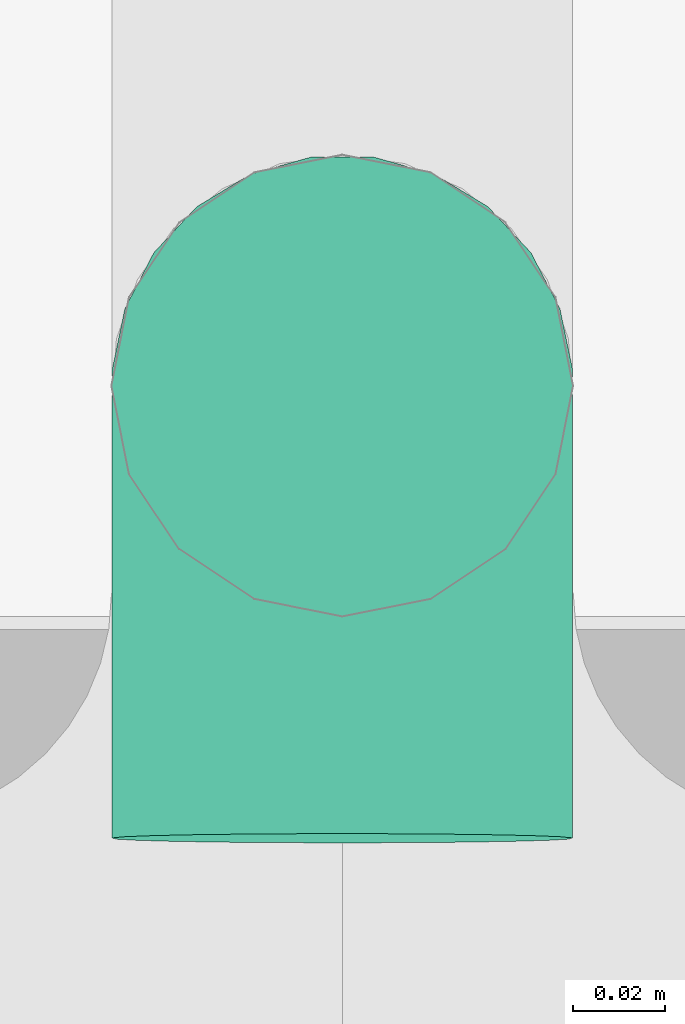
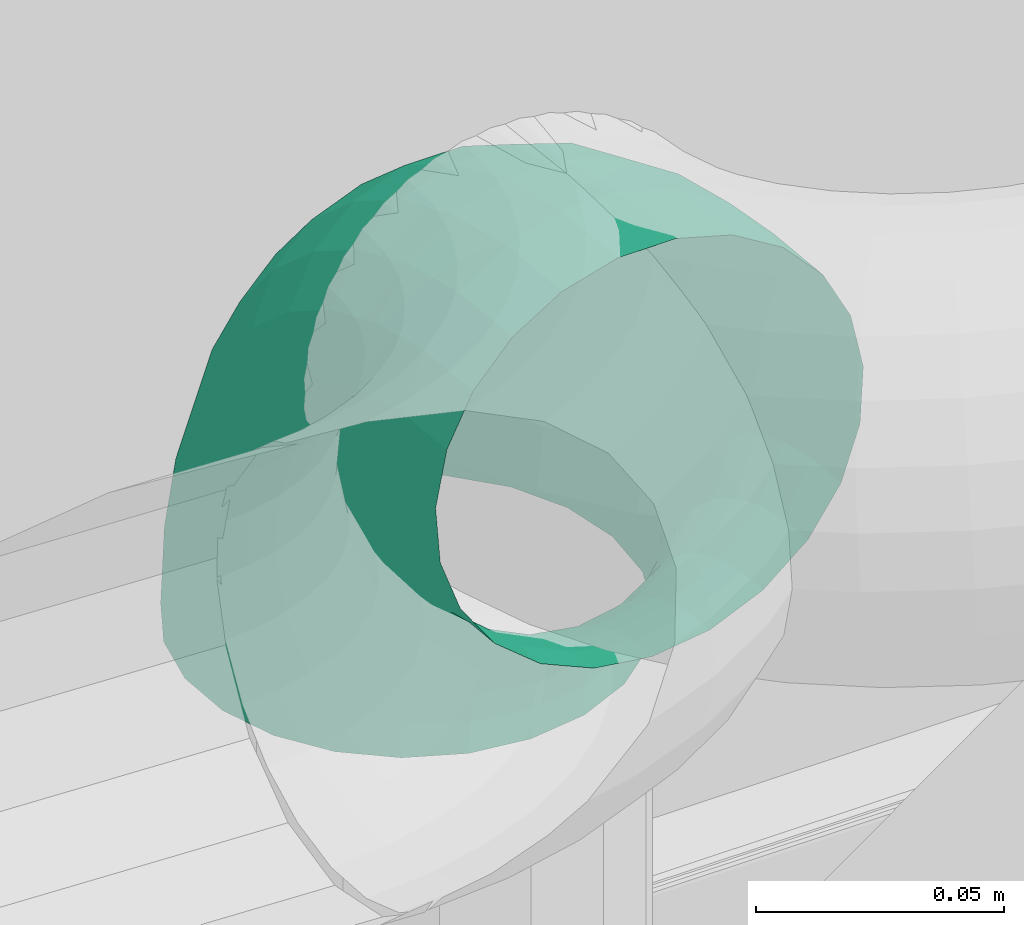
# One storey, part 101 of 106: 1 flow fitting.
"""IFC2X3 building model written with IfcOpenShell, lengths in metres."""

from ifc_helpers import new_model, entity, si_unit, converted_unit, derived_unit, money_unit, direction, frame, origin_with_axes, place, context, subcontext, project, spatial, open_shell, surface_model, material, type_object, element, save


model = new_model("IFC2X3")

# Units and contexts
model_context = context("Model", 3, precision=1e-05, world=origin_with_axes(), true_north=direction((0.0, 1.0)))
body_context = subcontext(model_context, "Body", "Model", "MODEL_VIEW", scale=1.0)
ifc_project = project(units=[si_unit("LENGTHUNIT", "METRE"), si_unit("AREAUNIT", "SQUARE_METRE"), si_unit("VOLUMEUNIT", "CUBIC_METRE"), si_unit("ABSORBEDDOSEUNIT", "GRAY"), si_unit("AMOUNTOFSUBSTANCEUNIT", "MOLE"), si_unit("DOSEEQUIVALENTUNIT", "SIEVERT"), si_unit("ELECTRICCAPACITANCEUNIT", "FARAD"), si_unit("ELECTRICCHARGEUNIT", "COULOMB"), si_unit("ELECTRICCONDUCTANCEUNIT", "SIEMENS"), si_unit("ELECTRICCURRENTUNIT", "AMPERE"), si_unit("ELECTRICRESISTANCEUNIT", "OHM"), si_unit("ELECTRICVOLTAGEUNIT", "VOLT"), si_unit("ENERGYUNIT", "JOULE"), si_unit("FORCEUNIT", "NEWTON"), si_unit("FREQUENCYUNIT", "HERTZ"), si_unit("ILLUMINANCEUNIT", "LUX"), si_unit("INDUCTANCEUNIT", "HENRY"), si_unit("LUMINOUSFLUXUNIT", "LUMEN"), si_unit("LUMINOUSINTENSITYUNIT", "CANDELA"), si_unit("MAGNETICFLUXDENSITYUNIT", "TESLA"), si_unit("MAGNETICFLUXUNIT", "WEBER"), si_unit("MASSUNIT", "GRAM"), converted_unit("PLANEANGLEUNIT", "degree", entity("IfcReal", 0.0174532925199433), si_unit("PLANEANGLEUNIT", "RADIAN"), dimensions=[0, 0, 0, 0, 0, 0, 0]), si_unit("POWERUNIT", "WATT"), si_unit("PRESSUREUNIT", "PASCAL"), si_unit("RADIOACTIVITYUNIT", "BECQUEREL"), si_unit("SOLIDANGLEUNIT", "STERADIAN"), si_unit("THERMODYNAMICTEMPERATUREUNIT", "KELVIN"), si_unit("TIMEUNIT", "SECOND"), derived_unit("ACCELERATIONUNIT", [(si_unit("LENGTHUNIT", "METRE"), 1), (si_unit("TIMEUNIT", "SECOND"), -2)]), derived_unit("ANGULARVELOCITYUNIT", [(converted_unit("PLANEANGLEUNIT", "degree", entity("IfcReal", 0.0174532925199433), si_unit("PLANEANGLEUNIT", "RADIAN"), dimensions=[0, 0, 0, 0, 0, 0, 0]), 1), (si_unit("TIMEUNIT", "SECOND"), -1)]), derived_unit("CURVATUREUNIT", [(converted_unit("PLANEANGLEUNIT", "degree", entity("IfcReal", 0.0174532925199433), si_unit("PLANEANGLEUNIT", "RADIAN"), dimensions=[0, 0, 0, 0, 0, 0, 0]), 1), (si_unit("LENGTHUNIT", "METRE"), -1)]), derived_unit("DYNAMICVISCOSITYUNIT", [(si_unit("PRESSUREUNIT", "PASCAL"), 1), (si_unit("TIMEUNIT", "SECOND"), 1)]), derived_unit("HEATFLUXDENSITYUNIT", [(si_unit("POWERUNIT", "WATT"), 1), (si_unit("LENGTHUNIT", "METRE"), -2)]), derived_unit("HEATINGVALUEUNIT", [(si_unit("ENERGYUNIT", "JOULE"), 1), (si_unit("MASSUNIT", "GRAM"), -1)]), derived_unit("INTEGERCOUNTRATEUNIT", [(si_unit("TIMEUNIT", "SECOND"), -1)]), derived_unit("IONCONCENTRATIONUNIT", [(si_unit("MASSUNIT", "GRAM"), 1), (si_unit("VOLUMEUNIT", "CUBIC_METRE"), -1)]), derived_unit("ISOTHERMALMOISTURECAPACITYUNIT", [(si_unit("VOLUMEUNIT", "CUBIC_METRE"), 1), (si_unit("MASSUNIT", "GRAM"), -1)]), derived_unit("KINEMATICVISCOSITYUNIT", [(si_unit("AREAUNIT", "SQUARE_METRE"), 1), (si_unit("TIMEUNIT", "SECOND"), -1)]), derived_unit("LINEARFORCEUNIT", [(si_unit("FORCEUNIT", "NEWTON"), 1), (si_unit("LENGTHUNIT", "METRE"), -1)]), derived_unit("LINEARMOMENTUNIT", [(si_unit("FORCEUNIT", "NEWTON"), 1), (si_unit("LENGTHUNIT", "METRE"), -1)]), derived_unit("LINEARSTIFFNESSUNIT", [(si_unit("FORCEUNIT", "NEWTON"), 1), (si_unit("LENGTHUNIT", "METRE"), -1)]), derived_unit("LINEARVELOCITYUNIT", [(si_unit("LENGTHUNIT", "METRE"), 1), (si_unit("TIMEUNIT", "SECOND"), -1)]), derived_unit("LUMINOUSINTENSITYDISTRIBUTIONUNIT", [(si_unit("LUMINOUSINTENSITYUNIT", "CANDELA"), 1), (si_unit("LUMINOUSFLUXUNIT", "LUMEN"), -1)]), derived_unit("MASSDENSITYUNIT", [(si_unit("MASSUNIT", "GRAM"), 1), (si_unit("VOLUMEUNIT", "CUBIC_METRE"), -1)]), derived_unit("MASSFLOWRATEUNIT", [(si_unit("MASSUNIT", "GRAM"), 1), (si_unit("TIMEUNIT", "SECOND"), -1)]), derived_unit("MASSPERLENGTHUNIT", [(si_unit("MASSUNIT", "GRAM"), 1), (si_unit("LENGTHUNIT", "METRE"), -1)]), derived_unit("MODULUSOFELASTICITYUNIT", [(si_unit("FORCEUNIT", "NEWTON"), 1), (si_unit("AREAUNIT", "SQUARE_METRE"), -1)]), derived_unit("MODULUSOFLINEARSUBGRADEREACTIONUNIT", [(si_unit("FORCEUNIT", "NEWTON"), 1), (si_unit("LENGTHUNIT", "METRE"), -2)]), derived_unit("MODULUSOFROTATIONALSUBGRADEREACTIONUNIT", [(si_unit("FORCEUNIT", "NEWTON"), 1), (si_unit("LENGTHUNIT", "METRE"), 1)]), derived_unit("MODULUSOFSUBGRADEREACTIONUNIT", [(si_unit("FORCEUNIT", "NEWTON"), 1), (si_unit("VOLUMEUNIT", "CUBIC_METRE"), -1)]), derived_unit("MOISTUREDIFFUSIVITYUNIT", [(si_unit("VOLUMEUNIT", "CUBIC_METRE"), 1), (si_unit("TIMEUNIT", "SECOND"), -1)]), derived_unit("MOLECULARWEIGHTUNIT", [(si_unit("MASSUNIT", "GRAM"), 1), (si_unit("AMOUNTOFSUBSTANCEUNIT", "MOLE"), -1)]), derived_unit("PLANARFORCEUNIT", [(si_unit("FORCEUNIT", "NEWTON"), 1), (si_unit("LENGTHUNIT", "METRE"), -2)]), derived_unit("ROTATIONALFREQUENCYUNIT", [(si_unit("TIMEUNIT", "SECOND"), -1)]), derived_unit("ROTATIONALMASSUNIT", [(si_unit("MASSUNIT", "GRAM"), 1), (si_unit("LENGTHUNIT", "METRE"), 2)]), derived_unit("ROTATIONALSTIFFNESSUNIT", [(si_unit("FORCEUNIT", "NEWTON"), 1), (si_unit("LENGTHUNIT", "METRE"), 1), (converted_unit("PLANEANGLEUNIT", "degree", entity("IfcReal", 0.0174532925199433), si_unit("PLANEANGLEUNIT", "RADIAN"), dimensions=[0, 0, 0, 0, 0, 0, 0]), -1)]), derived_unit("SECTIONAREAINTEGRALUNIT", [(si_unit("LENGTHUNIT", "METRE"), 5)]), derived_unit("SECTIONMODULUSUNIT", [(si_unit("LENGTHUNIT", "METRE"), 3)]), derived_unit("SHEARMODULUSUNIT", [(si_unit("FORCEUNIT", "NEWTON"), 1), (si_unit("AREAUNIT", "SQUARE_METRE"), -1)]), derived_unit("SOUNDPOWERUNIT", [(si_unit("ENERGYUNIT", "JOULE"), 1), (si_unit("TIMEUNIT", "SECOND"), -1)]), derived_unit("SPECIFICHEATCAPACITYUNIT", [(si_unit("FORCEUNIT", "NEWTON"), 1), (si_unit("MASSUNIT", "GRAM"), -1), (si_unit("THERMODYNAMICTEMPERATUREUNIT", "KELVIN"), -1)]), derived_unit("TEMPERATUREGRADIENTUNIT", [(si_unit("THERMODYNAMICTEMPERATUREUNIT", "KELVIN"), 1), (si_unit("LENGTHUNIT", "METRE"), -1)]), derived_unit("THERMALADMITTANCEUNIT", [(si_unit("POWERUNIT", "WATT"), 1), (si_unit("AREAUNIT", "SQUARE_METRE"), -1), (si_unit("THERMODYNAMICTEMPERATUREUNIT", "KELVIN"), -1)]), derived_unit("THERMALCONDUCTANCEUNIT", [(si_unit("POWERUNIT", "WATT"), 1), (si_unit("LENGTHUNIT", "METRE"), -1), (si_unit("THERMODYNAMICTEMPERATUREUNIT", "KELVIN"), -1)]), derived_unit("THERMALEXPANSIONCOEFFICIENTUNIT", [(si_unit("THERMODYNAMICTEMPERATUREUNIT", "KELVIN"), -1)]), derived_unit("THERMALRESISTANCEUNIT", [(si_unit("AREAUNIT", "SQUARE_METRE"), 1), (si_unit("POWERUNIT", "WATT"), -1)]), derived_unit("THERMALTRANSMITTANCEUNIT", [(si_unit("POWERUNIT", "WATT"), 1), (si_unit("AREAUNIT", "SQUARE_METRE"), -1), (si_unit("THERMODYNAMICTEMPERATUREUNIT", "KELVIN"), -1)]), derived_unit("TORQUEUNIT", [(si_unit("FORCEUNIT", "NEWTON"), 1), (si_unit("LENGTHUNIT", "METRE"), 1)]), derived_unit("VAPORPERMEABILITYUNIT", [(si_unit("MASSUNIT", "GRAM"), 1), (si_unit("TIMEUNIT", "SECOND"), -1)]), derived_unit("VOLUMETRICFLOWRATEUNIT", [(si_unit("VOLUMEUNIT", "CUBIC_METRE"), 1), (si_unit("TIMEUNIT", "SECOND"), -1)]), derived_unit("WARPINGCONSTANTUNIT", [(si_unit("LENGTHUNIT", "METRE"), 6)]), derived_unit("WARPINGMOMENTUNIT", [(si_unit("FORCEUNIT", "NEWTON"), 1), (si_unit("LENGTHUNIT", "METRE"), 2)]), money_unit("GBP")], contexts=[model_context])

# Site, building, storey
site_placement = place(None, origin_with_axes())
site = spatial("IfcSite", under=ifc_project, at=site_placement, Name="Site", CompositionType="ELEMENT")
building_placement = place(site_placement, origin_with_axes())
building = spatial("IfcBuilding", under=site, at=building_placement, Name="Building01", CompositionType="ELEMENT")
storey_placement = place(building_placement, origin_with_axes())
storey = spatial("IfcBuildingStorey", under=building, at=storey_placement, Name="GF", CompositionType="ELEMENT", Elevation=0.0)

# Flow fitting
ifc_material = material(Name="M_BSUK_ColdWater")
pipe_fitting_type = type_object("IfcPipeFittingType", Name="M-BmpElbow-DefaultElbow", PredefinedType="BEND")
flow_fitting_placement = place(storey_placement, frame((22.216022, 14.95, 15.333314), z_axis=(0.0, 1.0, 0.0), x_axis=(0.0, 0.0, -1.0)))
element("IfcFlowFitting", 1, at=flow_fitting_placement, inside=storey, type_object=pipe_fitting_type, material=ifc_material, Name="M-BmpElbow-DefaultElbow", ObjectType="M-BmpElbow-DefaultElbow", context=body_context, shape_type="SurfaceModel", body=[
    surface_model("IfcShellBasedSurfaceModel", [(-0.008009, -0.01349, -0.048768), (0.0, -0.01349, -0.048146), (0.0, 0.0, -0.05), (-0.007723, 0.0, -0.0506), (-0.015826, -0.01349, -0.05062), (-0.015261, 0.0, -0.052386), (-0.023264, -0.01349, -0.053657), (-0.022432, 0.0, -0.055314), (-0.030143, -0.01349, -0.057807), (-0.029065, 0.0, -0.059315), (-0.036298, -0.01349, -0.062969), (-0.035, 0.0, -0.064293), (-0.041582, -0.01349, -0.06902), (-0.040095, 0.0, -0.070127), (-0.045868, -0.01349, -0.075814), (-0.044228, 0.0, -0.076679), (-0.049054, -0.01349, -0.083189), (-0.0473, 0.0, -0.08379), (-0.051061, -0.01349, -0.090968), (-0.049236, 0.0, -0.091291), (-0.051844, -0.01349, -0.098963), (-0.04999, 0.0, -0.099), (-0.008847, -0.025979, -0.043408), (0.0, -0.025979, -0.042721), (-0.017482, -0.025979, -0.045454), (-0.025697, -0.025979, -0.048809), (-0.033296, -0.025979, -0.053392), (-0.040095, -0.025979, -0.059095), (-0.045932, -0.025979, -0.065779), (-0.050667, -0.025979, -0.073284), (-0.054185, -0.025979, -0.081431), (-0.056403, -0.025979, -0.090023), (-0.057268, -0.025979, -0.098855), (-0.010175, -0.036542, -0.034918), (0.0, -0.036542, -0.034128), (-0.020105, -0.036542, -0.037271), (-0.029553, -0.036542, -0.041129), (-0.038291, -0.036542, -0.0464), (-0.046111, -0.036542, -0.052958), (-0.052823, -0.036542, -0.060645), (-0.058268, -0.036542, -0.069276), (-0.062315, -0.036542, -0.078645), (-0.064865, -0.036542, -0.088526), (-0.065859, -0.036542, -0.098683), (-0.011893, -0.044394, -0.023927), (0.0, -0.044394, -0.023003), (-0.0235, -0.044394, -0.026677), (-0.034544, -0.044394, -0.031187), (-0.044758, -0.044394, -0.037348), (-0.053898, -0.044394, -0.045013), (-0.061744, -0.044394, -0.053998), (-0.068109, -0.044394, -0.064087), (-0.072838, -0.044394, -0.075038), (-0.07582, -0.044394, -0.086588), (-0.076981, -0.044394, -0.09846), (-0.013875, -0.048954, -0.011251), (0.0, -0.048954, -0.010173), (-0.027416, -0.048954, -0.014459), (-0.0403, -0.048954, -0.01972), (-0.052216, -0.048954, -0.026908), (-0.062879, -0.048954, -0.035851), (-0.072033, -0.048954, -0.046333), (-0.079458, -0.048954, -0.058103), (-0.084976, -0.048954, -0.070879), (-0.088454, -0.048954, -0.084353), (-0.089809, -0.048954, -0.098204), (-0.015973, -0.049883, 0.002171), (0.0, -0.049883, 0.003412), (-0.031562, -0.049883, -0.001522), (-0.046394, -0.049883, -0.007579), (-0.060113, -0.049883, -0.015854), (-0.072389, -0.049883, -0.026149), (-0.082927, -0.049883, -0.038216), (-0.091475, -0.049883, -0.051767), (-0.097827, -0.049883, -0.066475), (-0.101831, -0.049883, -0.081987), (-0.103391, -0.049883, -0.097932), (-0.018032, -0.047113, 0.015343), (0.0, -0.047113, 0.016744), (-0.035632, -0.047113, 0.011174), (-0.052376, -0.047113, 0.004336), (-0.067863, -0.047113, -0.005006), (-0.081721, -0.047113, -0.016628), (-0.093618, -0.047113, -0.030251), (-0.103268, -0.047113, -0.045548), (-0.110439, -0.047113, -0.062153), (-0.114959, -0.047113, -0.079665), (-0.116721, -0.047113, -0.097665), (-0.0199, -0.040848, 0.027288), (0.0, -0.040848, 0.028834), (-0.039322, -0.040848, 0.022687), (-0.0578, -0.040848, 0.015141), (-0.074891, -0.040848, 0.004831), (-0.090184, -0.040848, -0.007994), (-0.103313, -0.040848, -0.023028), (-0.113962, -0.040848, -0.039909), (-0.121876, -0.040848, -0.058233), (-0.126865, -0.040848, -0.077559), (-0.128808, -0.040848, -0.097424), (-0.021437, -0.031554, 0.03712), (0.0, -0.031554, 0.038786), (-0.042359, -0.031554, 0.032163), (-0.062264, -0.031554, 0.024035), (-0.080675, -0.031554, 0.012929), (-0.09715, -0.031554, -0.000887), (-0.111293, -0.031554, -0.017083), (-0.122765, -0.031554, -0.035268), (-0.13129, -0.031554, -0.055007), (-0.136664, -0.031554, -0.075826), (-0.138758, -0.031554, -0.097225), (-0.022529, -0.01992, 0.04411), (0.0, -0.01992, 0.045861), (-0.044518, -0.01992, 0.038901), (-0.065438, -0.01992, 0.030358), (-0.084788, -0.01992, 0.018686), (-0.102103, -0.01992, 0.004165), (-0.116966, -0.01992, -0.012856), (-0.129023, -0.01992, -0.031968), (-0.137983, -0.01992, -0.052713), (-0.143631, -0.01992, -0.074593), (-0.145831, -0.01992, -0.097083), (-0.023097, -0.006808, 0.04774), (0.0, -0.006808, 0.049534), (-0.045639, -0.006808, 0.042399), (-0.067087, -0.006808, 0.033641), (-0.086924, -0.006808, 0.021675), (-0.104674, -0.006808, 0.006789), (-0.119912, -0.006808, -0.010661), (-0.132273, -0.006808, -0.030254), (-0.141458, -0.006808, -0.051522), (-0.147248, -0.006808, -0.073953), (-0.149504, -0.006808, -0.09701), (-0.023097, 0.006808, 0.04774), (0.0, 0.006808, 0.049534), (-0.045639, 0.006808, 0.042399), (-0.067087, 0.006808, 0.033641), (-0.086924, 0.006808, 0.021675), (-0.104674, 0.006808, 0.006789), (-0.119912, 0.006808, -0.010661), (-0.132273, 0.006808, -0.030254), (-0.141458, 0.006808, -0.051522), (-0.147248, 0.006808, -0.073953), (-0.149504, 0.006808, -0.09701), (-0.022529, 0.01992, 0.04411), (0.0, 0.01992, 0.045861), (-0.044518, 0.01992, 0.038901), (-0.065438, 0.01992, 0.030358), (-0.084788, 0.01992, 0.018686), (-0.102103, 0.01992, 0.004165), (-0.116966, 0.01992, -0.012856), (-0.129023, 0.01992, -0.031968), (-0.137983, 0.01992, -0.052713), (-0.143631, 0.01992, -0.074593), (-0.145831, 0.01992, -0.097083), (-0.021437, 0.031554, 0.03712), (0.0, 0.031554, 0.038786), (-0.042359, 0.031554, 0.032163), (-0.062264, 0.031554, 0.024035), (-0.080675, 0.031554, 0.012929), (-0.09715, 0.031554, -0.000887), (-0.111293, 0.031554, -0.017083), (-0.122765, 0.031554, -0.035268), (-0.13129, 0.031554, -0.055007), (-0.136664, 0.031554, -0.075826), (-0.138758, 0.031554, -0.097225), (-0.0199, 0.040848, 0.027288), (0.0, 0.040848, 0.028834), (-0.039322, 0.040848, 0.022687), (-0.0578, 0.040848, 0.015141), (-0.074891, 0.040848, 0.004831), (-0.090184, 0.040848, -0.007994), (-0.103313, 0.040848, -0.023028), (-0.113962, 0.040848, -0.039909), (-0.121876, 0.040848, -0.058233), (-0.126865, 0.040848, -0.077559), (-0.128808, 0.040848, -0.097424), (-0.018032, 0.047113, 0.015343), (0.0, 0.047113, 0.016744), (-0.035632, 0.047113, 0.011174), (-0.052376, 0.047113, 0.004336), (-0.067863, 0.047113, -0.005006), (-0.081721, 0.047113, -0.016628), (-0.093618, 0.047113, -0.030251), (-0.103268, 0.047113, -0.045548), (-0.110439, 0.047113, -0.062153), (-0.114959, 0.047113, -0.079665), (-0.116721, 0.047113, -0.097665), (-0.015973, 0.049883, 0.002171), (0.0, 0.049883, 0.003412), (-0.031562, 0.049883, -0.001522), (-0.046394, 0.049883, -0.007579), (-0.060113, 0.049883, -0.015854), (-0.072389, 0.049883, -0.026149), (-0.082927, 0.049883, -0.038216), (-0.091475, 0.049883, -0.051767), (-0.097827, 0.049883, -0.066475), (-0.101831, 0.049883, -0.081987), (-0.103391, 0.049883, -0.097932), (-0.013875, 0.048954, -0.011251), (0.0, 0.048954, -0.010173), (-0.027416, 0.048954, -0.014459), (-0.0403, 0.048954, -0.01972), (-0.052216, 0.048954, -0.026908), (-0.062879, 0.048954, -0.035851), (-0.072033, 0.048954, -0.046333), (-0.079458, 0.048954, -0.058103), (-0.084976, 0.048954, -0.070879), (-0.088454, 0.048954, -0.084353), (-0.089809, 0.048954, -0.098204), (-0.011893, 0.044394, -0.023927), (0.0, 0.044394, -0.023003), (-0.0235, 0.044394, -0.026677), (-0.034544, 0.044394, -0.031187), (-0.044758, 0.044394, -0.037348), (-0.053898, 0.044394, -0.045013), (-0.061744, 0.044394, -0.053998), (-0.068109, 0.044394, -0.064087), (-0.072838, 0.044394, -0.075038), (-0.07582, 0.044394, -0.086588), (-0.076981, 0.044394, -0.09846), (-0.010175, 0.036542, -0.034918), (0.0, 0.036542, -0.034128), (-0.020105, 0.036542, -0.037271), (-0.029553, 0.036542, -0.041129), (-0.038291, 0.036542, -0.0464), (-0.046111, 0.036542, -0.052958), (-0.052823, 0.036542, -0.060645), (-0.058268, 0.036542, -0.069276), (-0.062315, 0.036542, -0.078645), (-0.064865, 0.036542, -0.088526), (-0.065859, 0.036542, -0.098683), (-0.008847, 0.025979, -0.043408), (0.0, 0.025979, -0.042721), (-0.017482, 0.025979, -0.045454), (-0.025697, 0.025979, -0.048809), (-0.033296, 0.025979, -0.053392), (-0.040095, 0.025979, -0.059095), (-0.045932, 0.025979, -0.065779), (-0.050667, 0.025979, -0.073284), (-0.054185, 0.025979, -0.081431), (-0.056403, 0.025979, -0.090023), (-0.057268, 0.025979, -0.098855), (-0.008009, 0.01349, -0.048768), (0.0, 0.01349, -0.048146), (-0.015826, 0.01349, -0.05062), (-0.023264, 0.01349, -0.053657), (-0.030143, 0.01349, -0.057807), (-0.036298, 0.01349, -0.062969), (-0.041582, 0.01349, -0.06902), (-0.045868, 0.01349, -0.075814), (-0.049054, 0.01349, -0.083189), (-0.051061, 0.01349, -0.090968), (-0.051844, 0.01349, -0.098963)], [open_shell([[[0, 1, 2, 3]], [[4, 0, 3, 5]], [[6, 4, 5, 7]], [[8, 6, 7, 9]], [[10, 8, 9, 11]], [[12, 10, 11, 13]], [[14, 12, 13, 15]], [[16, 14, 15, 17]], [[18, 16, 17, 19]], [[20, 18, 19, 21]], [[22, 23, 1, 0]], [[24, 22, 0, 4]], [[25, 24, 4, 6]], [[26, 25, 6, 8]], [[27, 26, 8, 10]], [[28, 27, 10, 12]], [[29, 28, 12, 14]], [[30, 29, 14, 16]], [[31, 30, 16, 18]], [[32, 31, 18, 20]], [[33, 34, 23, 22]], [[35, 33, 22, 24]], [[36, 35, 24, 25]], [[37, 36, 25, 26]], [[38, 37, 26, 27]], [[39, 38, 27, 28]], [[40, 39, 28, 29]], [[41, 40, 29, 30]], [[42, 41, 30, 31]], [[43, 42, 31, 32]], [[44, 45, 34, 33]], [[46, 44, 33, 35]], [[47, 46, 35, 36]], [[48, 47, 36, 37]], [[49, 48, 37, 38]], [[50, 49, 38, 39]], [[51, 50, 39, 40]], [[52, 51, 40, 41]], [[53, 52, 41, 42]], [[54, 53, 42, 43]], [[55, 56, 45, 44]], [[57, 55, 44, 46]], [[58, 57, 46, 47]], [[59, 58, 47, 48]], [[60, 59, 48, 49]], [[61, 60, 49, 50]], [[62, 61, 50, 51]], [[63, 62, 51, 52]], [[64, 63, 52, 53]], [[65, 64, 53, 54]], [[66, 67, 56, 55]], [[68, 66, 55, 57]], [[69, 68, 57, 58]], [[70, 69, 58, 59]], [[71, 70, 59, 60]], [[72, 71, 60, 61]], [[73, 72, 61, 62]], [[74, 73, 62, 63]], [[75, 74, 63, 64]], [[76, 75, 64, 65]], [[77, 78, 67, 66]], [[79, 77, 66, 68]], [[80, 79, 68, 69]], [[81, 80, 69, 70]], [[82, 81, 70, 71]], [[83, 82, 71, 72]], [[84, 83, 72, 73]], [[85, 84, 73, 74]], [[86, 85, 74, 75]], [[87, 86, 75, 76]], [[88, 89, 78, 77]], [[90, 88, 77, 79]], [[91, 90, 79, 80]], [[92, 91, 80, 81]], [[93, 92, 81, 82]], [[94, 93, 82, 83]], [[95, 94, 83, 84]], [[96, 95, 84, 85]], [[97, 96, 85, 86]], [[98, 97, 86, 87]], [[99, 100, 89, 88]], [[101, 99, 88, 90]], [[102, 101, 90, 91]], [[103, 102, 91, 92]], [[104, 103, 92, 93]], [[105, 104, 93, 94]], [[106, 105, 94, 95]], [[107, 106, 95, 96]], [[108, 107, 96, 97]], [[109, 108, 97, 98]], [[110, 111, 100, 99]], [[112, 110, 99, 101]], [[113, 112, 101, 102]], [[114, 113, 102, 103]], [[115, 114, 103, 104]], [[116, 115, 104, 105]], [[117, 116, 105, 106]], [[118, 117, 106, 107]], [[119, 118, 107, 108]], [[120, 119, 108, 109]], [[121, 122, 111, 110]], [[123, 121, 110, 112]], [[124, 123, 112, 113]], [[125, 124, 113, 114]], [[126, 125, 114, 115]], [[127, 126, 115, 116]], [[128, 127, 116, 117]], [[129, 128, 117, 118]], [[130, 129, 118, 119]], [[131, 130, 119, 120]], [[132, 133, 122, 121]], [[134, 132, 121, 123]], [[135, 134, 123, 124]], [[136, 135, 124, 125]], [[137, 136, 125, 126]], [[138, 137, 126, 127]], [[139, 138, 127, 128]], [[140, 139, 128, 129]], [[141, 140, 129, 130]], [[142, 141, 130, 131]], [[143, 144, 133, 132]], [[145, 143, 132, 134]], [[146, 145, 134, 135]], [[147, 146, 135, 136]], [[148, 147, 136, 137]], [[149, 148, 137, 138]], [[150, 149, 138, 139]], [[151, 150, 139, 140]], [[152, 151, 140, 141]], [[153, 152, 141, 142]], [[154, 155, 144, 143]], [[156, 154, 143, 145]], [[157, 156, 145, 146]], [[158, 157, 146, 147]], [[159, 158, 147, 148]], [[160, 159, 148, 149]], [[161, 160, 149, 150]], [[162, 161, 150, 151]], [[163, 162, 151, 152]], [[164, 163, 152, 153]], [[165, 166, 155, 154]], [[167, 165, 154, 156]], [[168, 167, 156, 157]], [[169, 168, 157, 158]], [[170, 169, 158, 159]], [[171, 170, 159, 160]], [[172, 171, 160, 161]], [[173, 172, 161, 162]], [[174, 173, 162, 163]], [[175, 174, 163, 164]], [[176, 177, 166, 165]], [[178, 176, 165, 167]], [[179, 178, 167, 168]], [[180, 179, 168, 169]], [[181, 180, 169, 170]], [[182, 181, 170, 171]], [[183, 182, 171, 172]], [[184, 183, 172, 173]], [[185, 184, 173, 174]], [[186, 185, 174, 175]], [[187, 188, 177, 176]], [[189, 187, 176, 178]], [[190, 189, 178, 179]], [[191, 190, 179, 180]], [[192, 191, 180, 181]], [[193, 192, 181, 182]], [[194, 193, 182, 183]], [[195, 194, 183, 184]], [[196, 195, 184, 185]], [[197, 196, 185, 186]], [[198, 199, 188, 187]], [[200, 198, 187, 189]], [[201, 200, 189, 190]], [[202, 201, 190, 191]], [[203, 202, 191, 192]], [[204, 203, 192, 193]], [[205, 204, 193, 194]], [[206, 205, 194, 195]], [[207, 206, 195, 196]], [[208, 207, 196, 197]], [[209, 210, 199, 198]], [[211, 209, 198, 200]], [[212, 211, 200, 201]], [[213, 212, 201, 202]], [[214, 213, 202, 203]], [[215, 214, 203, 204]], [[216, 215, 204, 205]], [[217, 216, 205, 206]], [[218, 217, 206, 207]], [[219, 218, 207, 208]], [[220, 221, 210, 209]], [[222, 220, 209, 211]], [[223, 222, 211, 212]], [[224, 223, 212, 213]], [[225, 224, 213, 214]], [[226, 225, 214, 215]], [[227, 226, 215, 216]], [[228, 227, 216, 217]], [[229, 228, 217, 218]], [[230, 229, 218, 219]], [[231, 232, 221, 220]], [[233, 231, 220, 222]], [[234, 233, 222, 223]], [[235, 234, 223, 224]], [[236, 235, 224, 225]], [[237, 236, 225, 226]], [[238, 237, 226, 227]], [[239, 238, 227, 228]], [[240, 239, 228, 229]], [[241, 240, 229, 230]], [[242, 243, 232, 231]], [[244, 242, 231, 233]], [[245, 244, 233, 234]], [[246, 245, 234, 235]], [[247, 246, 235, 236]], [[248, 247, 236, 237]], [[249, 248, 237, 238]], [[250, 249, 238, 239]], [[251, 250, 239, 240]], [[252, 251, 240, 241]], [[3, 2, 243, 242]], [[5, 3, 242, 244]], [[7, 5, 244, 245]], [[9, 7, 245, 246]], [[11, 9, 246, 247]], [[13, 11, 247, 248]], [[15, 13, 248, 249]], [[17, 15, 249, 250]], [[19, 17, 250, 251]], [[21, 19, 251, 252]]])]),
])

save(model, "model.ifc")
